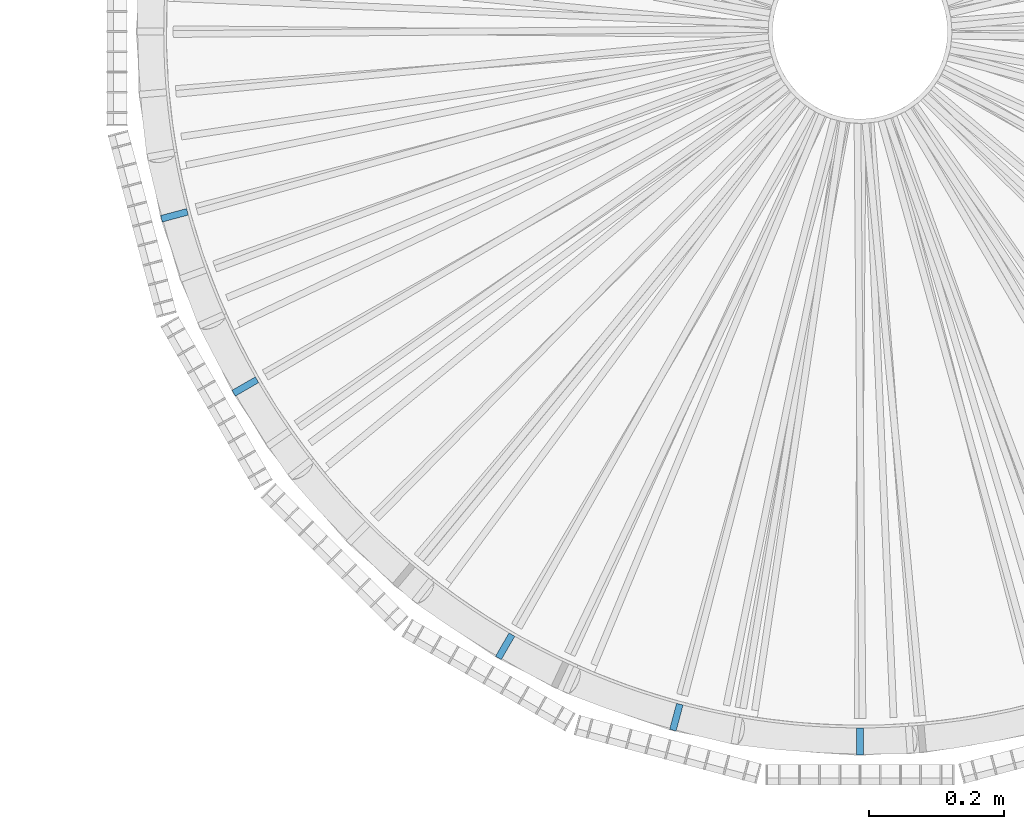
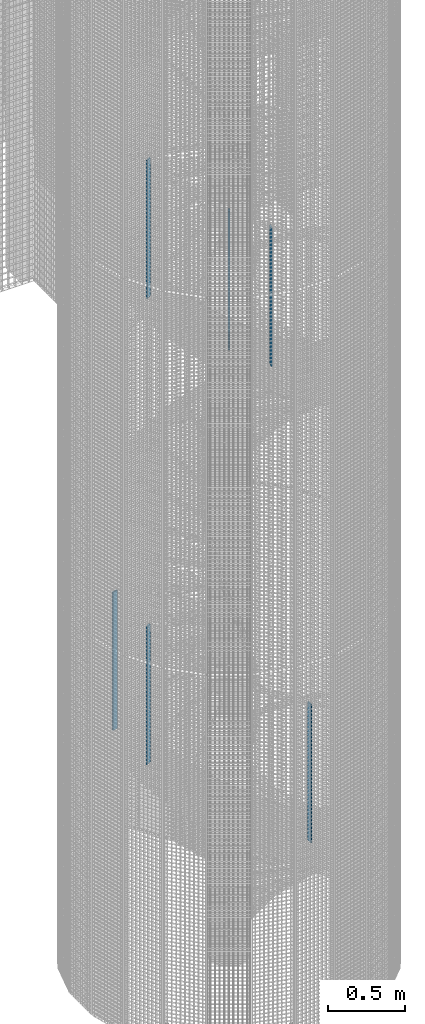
# One storey, part 40 of 1183: 6 columns, 6 elements without a shape of their own.
"""IFC2X3 building model written with IfcOpenShell, lengths in millimetres."""

from ifc_helpers import new_model, si_unit, frame, origin_with_axes, origin_2d_with_axis, place, context, subcontext, project, spatial, rectangle, extrude, material, type_object, element, aggregate, save


model = new_model("IFC2X3")

# Units and contexts
model_context = context("Model", 3, precision=1e-05, world=origin_with_axes())
body_context = subcontext(model_context, "Body", "Model", "MODEL_VIEW")
ifc_project = project(units=[si_unit("LENGTHUNIT", "METRE", prefix="MILLI"), si_unit("AREAUNIT", "SQUARE_METRE"), si_unit("VOLUMEUNIT", "CUBIC_METRE"), si_unit("MASSUNIT", "GRAM", prefix="KILO"), si_unit("TIMEUNIT", "SECOND"), si_unit("PLANEANGLEUNIT", "RADIAN"), si_unit("SOLIDANGLEUNIT", "STERADIAN"), si_unit("THERMODYNAMICTEMPERATUREUNIT", "DEGREE_CELSIUS"), si_unit("LUMINOUSINTENSITYUNIT", "LUMEN")], contexts=[model_context])

# Site, building, storey
site_placement = place(None, origin_with_axes())
site = spatial("IfcSite", under=ifc_project, at=site_placement, Name="Undefined", CompositionType="ELEMENT")
building_placement = place(site_placement, origin_with_axes())
building = spatial("IfcBuilding", under=site, at=building_placement, Name="Undefined", CompositionType="ELEMENT")
storey_placement = place(building_placement, origin_with_axes())
storey = spatial("IfcBuildingStorey", under=building, at=storey_placement, Name="Undefined", CompositionType="ELEMENT", Elevation=0.0)

# Assembly, column
assembly_1_placement = place(storey_placement, origin_with_axes())
assembly_1 = element("IfcElementAssembly", 1, at=assembly_1_placement, inside=storey, Name="MONTANT", AssemblyPlace="NOTDEFINED", PredefinedType="NOTDEFINED")
ifc_material = material(Name="STEEL/S235JR")
column_type = type_object("IfcColumnType", Name="PL10*40", PredefinedType="NOTDEFINED")
column_1_placement = place(assembly_1_placement, frame((21600.0, -1054.00000000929, 1545.2), z_axis=(0.0, 0.0, 1.0), x_axis=(0.0, 1.0, 0.0)))
column_1 = element("IfcColumn", 2, at=column_1_placement, type_object=column_type, material=ifc_material, Name="MONTANT", context=body_context, shape_type="SweptSolid", body=[
    extrude(rectangle(XDim=10.0, YDim=40.0, at=origin_2d_with_axis()), frame((0.0, 0.0, 1100.0), z_axis=(0.0, 0.0, -1.0), x_axis=(0.0, 1.0, 0.0)), (0.0, 0.0, 1.0), 1100.0),
])
aggregate(assembly_1, [column_1])

assembly_2_placement = place(storey_placement, origin_with_axes())
assembly_2 = element("IfcElementAssembly", 3, at=assembly_2_placement, inside=storey, Name="MONTANT", AssemblyPlace="NOTDEFINED", PredefinedType="NOTDEFINED")
column_2_placement = place(assembly_2_placement, frame((20581.9141790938, -272.795273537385, 2317.8), z_axis=(0.0, 0.0, 1.0), x_axis=(0.965925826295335, 0.258819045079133, 0.0)))
column_2 = element("IfcColumn", 4, at=column_2_placement, type_object=column_type, material=ifc_material, Name="MONTANT", context=body_context, shape_type="SweptSolid", body=[
    extrude(rectangle(XDim=10.0, YDim=40.0, at=origin_2d_with_axis()), frame((0.0, 0.0, 1100.0), z_axis=(0.0, 0.0, -1.0), x_axis=(0.0, 1.0, 0.0)), (0.0, 0.0, 1.0), 1100.0),
])
aggregate(assembly_2, [column_2])

assembly_3_placement = place(storey_placement, origin_with_axes())
assembly_3 = element("IfcElementAssembly", 5, at=assembly_3_placement, inside=storey, Name="MONTANT", AssemblyPlace="NOTDEFINED", PredefinedType="NOTDEFINED")
column_3_placement = place(assembly_3_placement, frame((21072.9999999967, -912.790775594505, 5562.72), z_axis=(0.0, 0.0, 1.0), x_axis=(0.49999999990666, 0.866025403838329, 0.0)))
column_3 = element("IfcColumn", 6, at=column_3_placement, type_object=column_type, material=ifc_material, Name="MONTANT", context=body_context, shape_type="SweptSolid", body=[
    extrude(rectangle(XDim=10.0, YDim=40.0, at=origin_2d_with_axis()), frame((0.0, 0.0, 1100.0), z_axis=(0.0, 0.0, -1.0), x_axis=(0.0, 1.0, 0.0)), (0.0, 0.0, 1.0), 1100.0),
])
aggregate(assembly_3, [column_3])

assembly_4_placement = place(storey_placement, origin_with_axes())
assembly_4 = element("IfcElementAssembly", 7, at=assembly_4_placement, inside=storey, Name="MONTANT", AssemblyPlace="NOTDEFINED", PredefinedType="NOTDEFINED")
column_4_placement = place(assembly_4_placement, frame((20687.2092244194, -526.999999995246, 5871.76), z_axis=(0.0, 0.0, 1.0), x_axis=(0.866025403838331, 0.499999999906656, 0.0)))
column_4 = element("IfcColumn", 8, at=column_4_placement, type_object=column_type, material=ifc_material, Name="MONTANT", context=body_context, shape_type="SweptSolid", body=[
    extrude(rectangle(XDim=10.0, YDim=40.0, at=origin_2d_with_axis()), frame((0.0, 0.0, 1100.0), z_axis=(0.0, 0.0, -1.0), x_axis=(0.0, 1.0, 0.0)), (0.0, 0.0, 1.0), 1100.0),
])
aggregate(assembly_4, [column_4])

assembly_5_placement = place(storey_placement, origin_with_axes())
assembly_5 = element("IfcElementAssembly", 9, at=assembly_5_placement, inside=storey, Name="MONTANT", AssemblyPlace="NOTDEFINED", PredefinedType="NOTDEFINED")
column_5_placement = place(assembly_5_placement, frame((21327.2047264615, -1018.08582091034, 5408.2), z_axis=(0.0, 0.0, 1.0), x_axis=(0.258819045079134, 0.965925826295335, 0.0)))
column_5 = element("IfcColumn", 10, at=column_5_placement, type_object=column_type, material=ifc_material, Name="MONTANT", context=body_context, shape_type="SweptSolid", body=[
    extrude(rectangle(XDim=10.0, YDim=40.0, at=origin_2d_with_axis()), frame((0.0, 0.0, 1100.0), z_axis=(0.0, 0.0, -1.0), x_axis=(0.0, 1.0, 0.0)), (0.0, 0.0, 1.0), 1100.0),
])
aggregate(assembly_5, [column_5])

assembly_6_placement = place(storey_placement, origin_with_axes())
assembly_6 = element("IfcElementAssembly", 11, at=assembly_6_placement, inside=storey, Name="MONTANT", AssemblyPlace="NOTDEFINED", PredefinedType="NOTDEFINED")
column_6_placement = place(assembly_6_placement, frame((20687.2092244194, -526.999999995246, 2163.28), z_axis=(0.0, 0.0, 1.0), x_axis=(0.866025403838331, 0.499999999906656, 0.0)))
column_6 = element("IfcColumn", 12, at=column_6_placement, type_object=column_type, material=ifc_material, Name="MONTANT", context=body_context, shape_type="SweptSolid", body=[
    extrude(rectangle(XDim=10.0, YDim=40.0, at=origin_2d_with_axis()), frame((0.0, 0.0, 1100.0), z_axis=(0.0, 0.0, -1.0), x_axis=(0.0, 1.0, 0.0)), (0.0, 0.0, 1.0), 1100.0),
])
aggregate(assembly_6, [column_6])

save(model, "model.ifc")
